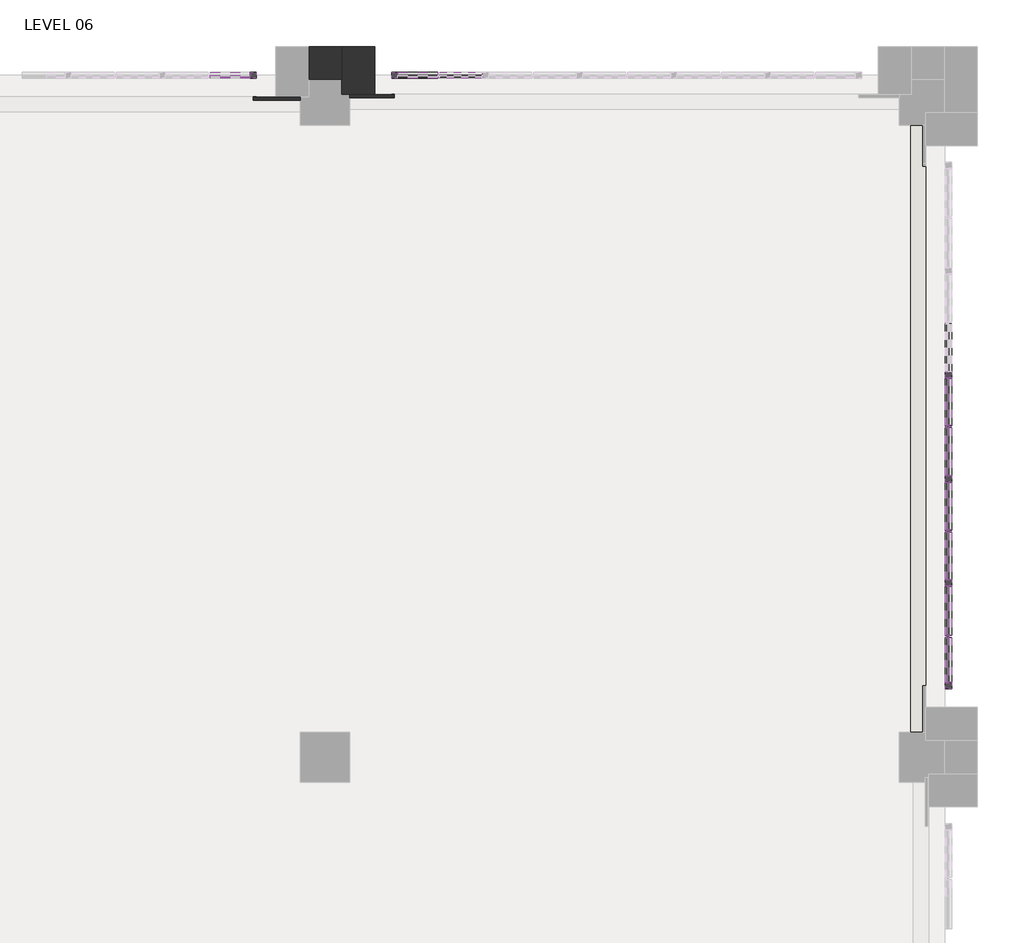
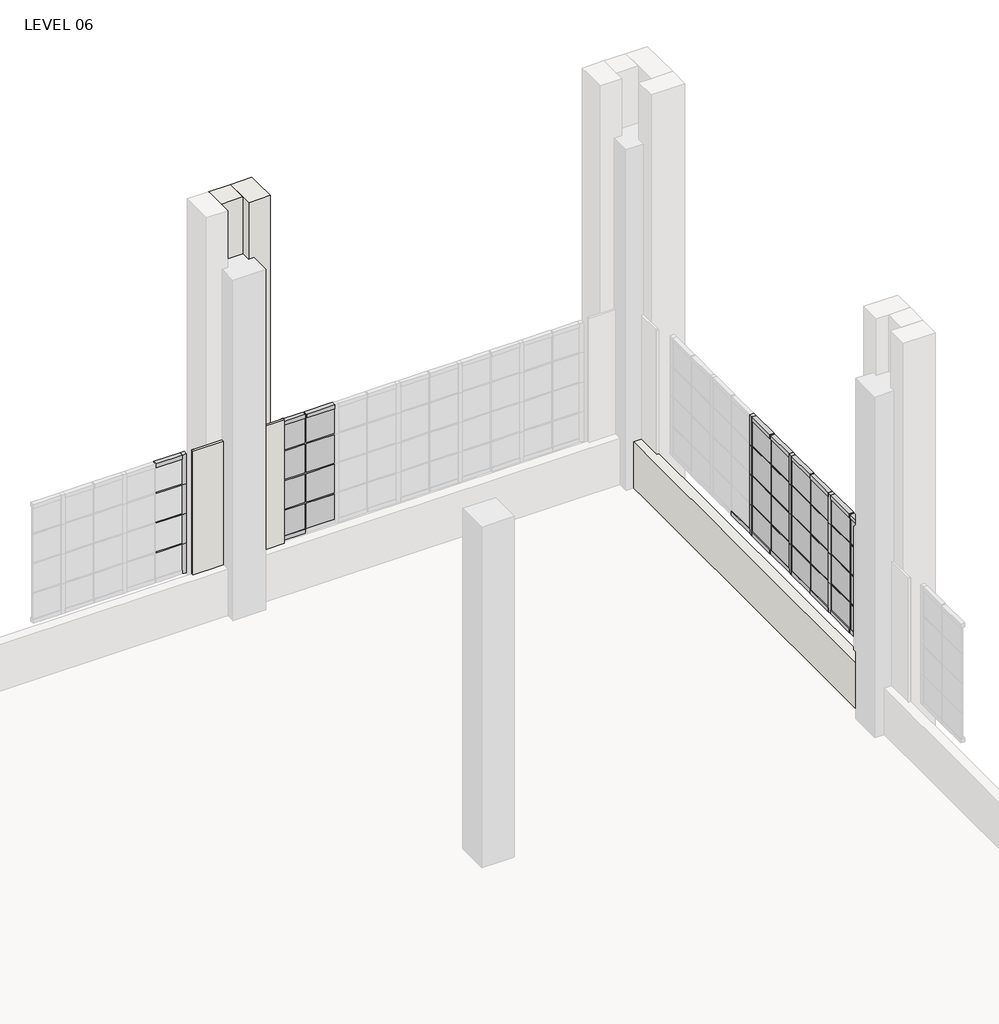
# One storey, part 14 of 16: 74 members, 32 plates, 8 walls.
"""IFC4 building model written with IfcOpenShell, lengths in millimetres."""

from ifc_helpers import new_model, si_unit, frame, origin, place, context, project, spatial, polyline, outline, extrude, faceted_brep, transform, mapped, element, save
from components import member_78bb2ef1, member_fd592df6, member_5454a1e2, member_b79563ae, member_0fe428da, member_d251e4a5, member_818b941f, member_79ff4cf2, member_378e0c06, member_17eb62f4, member_ba51e770, member_6e5aab5d, member_a6d649dc, member_a4f35c7f, member_8e47d4cd, member_ae2a2eb1, member_32b4be1d, member_1293f902, member_75ae02f4, member_141a1acd, system_panel_glazed_cd28395c, system_panel_glazed_f2669b12, system_panel_glazed_1e68634a, system_panel_glazed_e06c2ed7, system_panel_glazed_7e0f1b5c, system_panel_glazed_26de1e18, system_panel_glazed_c5f65025, system_panel_glazed_f888302b, system_panel_glazed_52d05554, system_panel_glazed_5ac43be7, system_panel_glazed_190d9c40, system_panel_glazed_114676b6, system_panel_glazed_84a10c8e, system_panel_glazed_44697018, system_panel_glazed_99b9b709, system_panel_glazed_bf1454fd

model = new_model("IFC4")

# Units and contexts
model_context = context("Model", 3, world=origin())
ifc_project = project(units=[si_unit("LENGTHUNIT", "METRE", prefix="MILLI")], contexts=[model_context])

# Site, building, storey
site = spatial("IfcSite", under=ifc_project)
building = spatial("IfcBuilding", under=site)
storey = spatial("IfcBuildingStorey", under=building, Name="LEVEL 06", Elevation=17449.8)

# Members
placement = place(None, origin())
member_shape = member_78bb2ef1(model_context)
element("IfcMember", 1, ObjectType="Rectangular Mullion : 1\" x 1\" - Butt Joint", at=placement, inside=storey, context=model_context, shape_type="MappedRepresentation", body=[
    mapped(member_shape, transform((-445.6849596, -7254.2239354, 19989.8), x_axis=(0.0, 1.0, 0.0), y_axis=(1.0, 0.0, 0.0), z_axis=(0.0, 0.0, -1.0))),
])
element("IfcMember", 2, ObjectType="Rectangular Mullion : 1\" x 1\" - Butt Joint", at=placement, inside=storey, context=model_context, shape_type="MappedRepresentation", body=[
    mapped(member_shape, transform((-445.6849596, -5966.495256, 19989.8), x_axis=(0.0, 1.0, 0.0), y_axis=(1.0, 0.0, 0.0), z_axis=(0.0, 0.0, -1.0))),
])
element("IfcMember", 3, ObjectType="Rectangular Mullion : 1\" x 1\" - Butt Joint", at=placement, inside=storey, context=model_context, shape_type="MappedRepresentation", body=[
    mapped(member_shape, transform((-445.6849596, -4690.5244085, 19989.8), x_axis=(0.0, 1.0, 0.0), y_axis=(1.0, 0.0, 0.0), z_axis=(0.0, 0.0, -1.0))),
])
element("IfcMember", 4, ObjectType="Rectangular Mullion : 1\" x 1\" - Butt Joint", at=placement, inside=storey, context=model_context, shape_type="MappedRepresentation", body=[
    mapped(member_shape, transform((-445.6849596, -7254.2239354, 18821.4), x_axis=(0.0, 1.0, 0.0), y_axis=(1.0, 0.0, 0.0), z_axis=(0.0, 0.0, -1.0))),
])
element("IfcMember", 5, ObjectType="Rectangular Mullion : 1\" x 1\" - Butt Joint", at=placement, inside=storey, context=model_context, shape_type="MappedRepresentation", body=[
    mapped(member_shape, transform((-445.6849596, -7254.2239354, 19405.6), x_axis=(0.0, 1.0, 0.0), y_axis=(1.0, 0.0, 0.0), z_axis=(0.0, 0.0, -1.0))),
])
element("IfcMember", 6, ObjectType="Rectangular Mullion : 1\" x 1\" - Butt Joint", at=placement, inside=storey, context=model_context, shape_type="MappedRepresentation", body=[
    mapped(member_shape, transform((-445.6849596, -5966.495256, 18821.4), x_axis=(0.0, 1.0, 0.0), y_axis=(1.0, 0.0, 0.0), z_axis=(0.0, 0.0, -1.0))),
])
element("IfcMember", 7, ObjectType="Rectangular Mullion : 1\" x 1\" - Butt Joint", at=placement, inside=storey, context=model_context, shape_type="MappedRepresentation", body=[
    mapped(member_shape, transform((-445.6849596, -5966.495256, 19405.6), x_axis=(0.0, 1.0, 0.0), y_axis=(1.0, 0.0, 0.0), z_axis=(0.0, 0.0, -1.0))),
])
element("IfcMember", 8, ObjectType="Rectangular Mullion : 1\" x 1\" - Butt Joint", at=placement, inside=storey, context=model_context, shape_type="MappedRepresentation", body=[
    mapped(member_shape, transform((-445.6849596, -4690.5244085, 18821.4), x_axis=(0.0, 1.0, 0.0), y_axis=(1.0, 0.0, 0.0), z_axis=(0.0, 0.0, -1.0))),
])
element("IfcMember", 9, ObjectType="Rectangular Mullion : 1\" x 1\" - Butt Joint", at=placement, inside=storey, context=model_context, shape_type="MappedRepresentation", body=[
    mapped(member_shape, transform((-445.6849596, -4690.5244085, 19405.6), x_axis=(0.0, 1.0, 0.0), y_axis=(1.0, 0.0, 0.0), z_axis=(0.0, 0.0, -1.0))),
])
element("IfcMember", 10, ObjectType="Rectangular Mullion : 1\" x 1\" - Butt Joint", at=placement, inside=storey, context=model_context, shape_type="MappedRepresentation", body=[
    mapped(member_shape, transform((-445.6849596, -7254.2239354, 18237.2), x_axis=(0.0, 1.0, 0.0), y_axis=(1.0, 0.0, 0.0), z_axis=(0.0, 0.0, -1.0))),
])
element("IfcMember", 11, ObjectType="Rectangular Mullion : 1\" x 1\" - Butt Joint", at=placement, inside=storey, context=model_context, shape_type="MappedRepresentation", body=[
    mapped(member_shape, transform((-445.6849596, -5966.495256, 18237.2), x_axis=(0.0, 1.0, 0.0), y_axis=(1.0, 0.0, 0.0), z_axis=(0.0, 0.0, -1.0))),
])
element("IfcMember", 12, ObjectType="Rectangular Mullion : 1\" x 1\" - Butt Joint", at=placement, inside=storey, context=model_context, shape_type="MappedRepresentation", body=[
    mapped(member_shape, transform((-445.6849596, -4690.5244085, 18237.2), x_axis=(0.0, 1.0, 0.0), y_axis=(1.0, 0.0, 0.0), z_axis=(0.0, 0.0, -1.0))),
])
member_2_shape = member_fd592df6(model_context)
element("IfcMember", 13, ObjectType="Rectangular Mullion : 1\" x 1\" - Butt Joint", at=placement, inside=storey, context=model_context, shape_type="MappedRepresentation", body=[
    mapped(member_2_shape, transform((-8961.5971519, -412.75, 19989.8), x_axis=(0.0, 0.0, 1.0), y_axis=(0.0, -1.0, 0.0), z_axis=(1.0, 0.0, 0.0))),
])
element("IfcMember", 14, ObjectType="Rectangular Mullion : 1\" x 1\" - Butt Joint", at=placement, inside=storey, context=model_context, shape_type="MappedRepresentation", body=[
    mapped(member_2_shape, transform((-8961.5971519, -412.75, 19405.6), x_axis=(0.0, 0.0, 1.0), y_axis=(0.0, -1.0, 0.0), z_axis=(1.0, 0.0, 0.0))),
])
element("IfcMember", 15, ObjectType="Rectangular Mullion : 1\" x 1\" - Butt Joint", at=placement, inside=storey, context=model_context, shape_type="MappedRepresentation", body=[
    mapped(member_2_shape, transform((-8961.5971519, -412.75, 18821.4), x_axis=(0.0, 0.0, 1.0), y_axis=(0.0, -1.0, 0.0), z_axis=(1.0, 0.0, 0.0))),
])
member_3_shape = member_5454a1e2(model_context)
element("IfcMember", 16, ObjectType="Rectangular Mullion : 1\" x 1\" - Butt Joint", at=placement, inside=storey, context=model_context, shape_type="MappedRepresentation", body=[
    mapped(member_3_shape, transform((-445.6849596, -6637.5924424, 19989.8), x_axis=(0.0, 0.0, 1.0), y_axis=(1.0, 0.0, 0.0), z_axis=(0.0, 1.0, 0.0))),
])
element("IfcMember", 17, ObjectType="Rectangular Mullion : 1\" x 1\" - Butt Joint", at=placement, inside=storey, context=model_context, shape_type="MappedRepresentation", body=[
    mapped(member_3_shape, transform((-445.6849596, -6637.5924424, 19405.6), x_axis=(0.0, 0.0, 1.0), y_axis=(1.0, 0.0, 0.0), z_axis=(0.0, 1.0, 0.0))),
])
element("IfcMember", 18, ObjectType="Rectangular Mullion : 1\" x 1\" - Butt Joint", at=placement, inside=storey, context=model_context, shape_type="MappedRepresentation", body=[
    mapped(member_3_shape, transform((-445.6849596, -6637.5924424, 18821.4), x_axis=(0.0, 0.0, 1.0), y_axis=(1.0, 0.0, 0.0), z_axis=(0.0, 1.0, 0.0))),
])
member_4_shape = member_b79563ae(model_context)
element("IfcMember", 19, ObjectType="Rectangular Mullion : 1\" x 1\" - Butt Joint", at=placement, inside=storey, context=model_context, shape_type="MappedRepresentation", body=[
    mapped(member_4_shape, transform((-445.6849596, -7266.9239354, 19989.8), x_axis=(0.0, 0.0, 1.0), y_axis=(1.0, 0.0, 0.0), z_axis=(0.0, 1.0, 0.0))),
])
element("IfcMember", 20, ObjectType="Rectangular Mullion : 1\" x 1\" - Butt Joint", at=placement, inside=storey, context=model_context, shape_type="MappedRepresentation", body=[
    mapped(member_4_shape, transform((-445.6849596, -7266.9239354, 19405.6), x_axis=(0.0, 0.0, 1.0), y_axis=(1.0, 0.0, 0.0), z_axis=(0.0, 1.0, 0.0))),
])
element("IfcMember", 21, ObjectType="Rectangular Mullion : 1\" x 1\" - Butt Joint", at=placement, inside=storey, context=model_context, shape_type="MappedRepresentation", body=[
    mapped(member_4_shape, transform((-445.6849596, -7266.9239354, 18821.4), x_axis=(0.0, 0.0, 1.0), y_axis=(1.0, 0.0, 0.0), z_axis=(0.0, 1.0, 0.0))),
])
member_5_shape = member_0fe428da(model_context)
element("IfcMember", 22, ObjectType="Rectangular Mullion : 1\" x 1\" - Butt Joint", at=placement, inside=storey, context=model_context, shape_type="MappedRepresentation", body=[
    mapped(member_5_shape, transform((-445.6849596, -5979.195256, 19989.8), x_axis=(0.0, 0.0, 1.0), y_axis=(1.0, 0.0, 0.0), z_axis=(0.0, 1.0, 0.0))),
])
element("IfcMember", 23, ObjectType="Rectangular Mullion : 1\" x 1\" - Butt Joint", at=placement, inside=storey, context=model_context, shape_type="MappedRepresentation", body=[
    mapped(member_5_shape, transform((-445.6849596, -5979.195256, 19405.6), x_axis=(0.0, 0.0, 1.0), y_axis=(1.0, 0.0, 0.0), z_axis=(0.0, 1.0, 0.0))),
])
element("IfcMember", 24, ObjectType="Rectangular Mullion : 1\" x 1\" - Butt Joint", at=placement, inside=storey, context=model_context, shape_type="MappedRepresentation", body=[
    mapped(member_5_shape, transform((-445.6849596, -5979.195256, 18821.4), x_axis=(0.0, 0.0, 1.0), y_axis=(1.0, 0.0, 0.0), z_axis=(0.0, 1.0, 0.0))),
])
member_6_shape = member_d251e4a5(model_context)
element("IfcMember", 25, ObjectType="Rectangular Mullion : 1\" x 1\" - Butt Joint", at=placement, inside=storey, context=model_context, shape_type="MappedRepresentation", body=[
    mapped(member_6_shape, transform((-445.6849596, -5368.9142902, 19989.8), x_axis=(0.0, 0.0, 1.0), y_axis=(1.0, 0.0, 0.0), z_axis=(0.0, 1.0, 0.0))),
])
element("IfcMember", 26, ObjectType="Rectangular Mullion : 1\" x 1\" - Butt Joint", at=placement, inside=storey, context=model_context, shape_type="MappedRepresentation", body=[
    mapped(member_6_shape, transform((-445.6849596, -5368.9142902, 19405.6), x_axis=(0.0, 0.0, 1.0), y_axis=(1.0, 0.0, 0.0), z_axis=(0.0, 1.0, 0.0))),
])
element("IfcMember", 27, ObjectType="Rectangular Mullion : 1\" x 1\" - Butt Joint", at=placement, inside=storey, context=model_context, shape_type="MappedRepresentation", body=[
    mapped(member_6_shape, transform((-445.6849596, -5368.9142902, 18821.4), x_axis=(0.0, 0.0, 1.0), y_axis=(1.0, 0.0, 0.0), z_axis=(0.0, 1.0, 0.0))),
])
member_7_shape = member_818b941f(model_context)
element("IfcMember", 28, ObjectType="Rectangular Mullion : 1\" x 1\" - Butt Joint", at=placement, inside=storey, context=model_context, shape_type="MappedRepresentation", body=[
    mapped(member_7_shape, transform((-445.6849596, -4703.2244085, 19989.8), x_axis=(0.0, 0.0, 1.0), y_axis=(1.0, 0.0, 0.0), z_axis=(0.0, 1.0, 0.0))),
])
element("IfcMember", 29, ObjectType="Rectangular Mullion : 1\" x 1\" - Butt Joint", at=placement, inside=storey, context=model_context, shape_type="MappedRepresentation", body=[
    mapped(member_7_shape, transform((-445.6849596, -4703.2244085, 19405.6), x_axis=(0.0, 0.0, 1.0), y_axis=(1.0, 0.0, 0.0), z_axis=(0.0, 1.0, 0.0))),
])
element("IfcMember", 30, ObjectType="Rectangular Mullion : 1\" x 1\" - Butt Joint", at=placement, inside=storey, context=model_context, shape_type="MappedRepresentation", body=[
    mapped(member_7_shape, transform((-445.6849596, -4703.2244085, 18821.4), x_axis=(0.0, 0.0, 1.0), y_axis=(1.0, 0.0, 0.0), z_axis=(0.0, 1.0, 0.0))),
])
member_8_shape = member_79ff4cf2(model_context)
element("IfcMember", 31, ObjectType="Rectangular Mullion : 1\" x 1\" - Butt Joint", at=placement, inside=storey, context=model_context, shape_type="MappedRepresentation", body=[
    mapped(member_8_shape, transform((-445.6849596, -4097.8595268, 19989.8), x_axis=(0.0, 0.0, 1.0), y_axis=(1.0, 0.0, 0.0), z_axis=(0.0, 1.0, 0.0))),
])
element("IfcMember", 32, ObjectType="Rectangular Mullion : 1\" x 1\" - Butt Joint", at=placement, inside=storey, context=model_context, shape_type="MappedRepresentation", body=[
    mapped(member_8_shape, transform((-445.6849596, -4097.8595268, 19405.6), x_axis=(0.0, 0.0, 1.0), y_axis=(1.0, 0.0, 0.0), z_axis=(0.0, 1.0, 0.0))),
])
element("IfcMember", 33, ObjectType="Rectangular Mullion : 1\" x 1\" - Butt Joint", at=placement, inside=storey, context=model_context, shape_type="MappedRepresentation", body=[
    mapped(member_8_shape, transform((-445.6849596, -4097.8595268, 18821.4), x_axis=(0.0, 0.0, 1.0), y_axis=(1.0, 0.0, 0.0), z_axis=(0.0, 1.0, 0.0))),
])
member_9_shape = member_378e0c06(model_context)
element("IfcMember", 34, ObjectType="Rectangular Mullion : 3\" x 3\" Window Jamb", at=placement, inside=storey, context=model_context, shape_type="MappedRepresentation", body=[
    mapped(member_9_shape, transform((-445.6849596, -6599.4924424, 19989.8), x_axis=(0.0, 1.0, 0.0), y_axis=(1.0, 0.0, 0.0), z_axis=(0.0, 0.0, -1.0))),
])
element("IfcMember", 35, ObjectType="Rectangular Mullion : 3\" x 3\" Window Jamb", at=placement, inside=storey, context=model_context, shape_type="MappedRepresentation", body=[
    mapped(member_9_shape, transform((-445.6849596, -5330.8142902, 19989.8), x_axis=(0.0, 1.0, 0.0), y_axis=(1.0, 0.0, 0.0), z_axis=(0.0, 0.0, -1.0))),
])
element("IfcMember", 36, ObjectType="Rectangular Mullion : 3\" x 3\" Window Jamb", at=placement, inside=storey, context=model_context, shape_type="MappedRepresentation", body=[
    mapped(member_9_shape, transform((-445.6849596, -4059.7595268, 19989.8), x_axis=(0.0, 1.0, 0.0), y_axis=(1.0, 0.0, 0.0), z_axis=(0.0, 0.0, -1.0))),
])
member_10_shape = member_17eb62f4(model_context)
element("IfcMember", 37, ObjectType="Rectangular Mullion : 3\" x 3\" Window Jamb", at=placement, inside=storey, context=model_context, shape_type="MappedRepresentation", body=[
    mapped(member_10_shape, transform((-445.6849596, -7891.9738171, 20574.0), x_axis=(0.0, -1.0, 0.0), y_axis=(1.0, 0.0, 0.0), z_axis=(0.0, 0.0, 1.0))),
])
element("IfcMember", 38, ObjectType="Rectangular Mullion : 3\" x 3\" Window Jamb", at=placement, inside=storey, context=model_context, shape_type="MappedRepresentation", body=[
    mapped(member_9_shape, transform((-445.6849596, -6599.4924424, 18821.4), x_axis=(0.0, 1.0, 0.0), y_axis=(1.0, 0.0, 0.0), z_axis=(0.0, 0.0, -1.0))),
])
element("IfcMember", 39, ObjectType="Rectangular Mullion : 3\" x 3\" Window Jamb", at=placement, inside=storey, context=model_context, shape_type="MappedRepresentation", body=[
    mapped(member_9_shape, transform((-445.6849596, -6599.4924424, 19405.6), x_axis=(0.0, 1.0, 0.0), y_axis=(1.0, 0.0, 0.0), z_axis=(0.0, 0.0, -1.0))),
])
element("IfcMember", 40, ObjectType="Rectangular Mullion : 3\" x 3\" Window Jamb", at=placement, inside=storey, context=model_context, shape_type="MappedRepresentation", body=[
    mapped(member_9_shape, transform((-445.6849596, -5330.8142902, 18821.4), x_axis=(0.0, 1.0, 0.0), y_axis=(1.0, 0.0, 0.0), z_axis=(0.0, 0.0, -1.0))),
])
element("IfcMember", 41, ObjectType="Rectangular Mullion : 3\" x 3\" Window Jamb", at=placement, inside=storey, context=model_context, shape_type="MappedRepresentation", body=[
    mapped(member_9_shape, transform((-445.6849596, -5330.8142902, 19405.6), x_axis=(0.0, 1.0, 0.0), y_axis=(1.0, 0.0, 0.0), z_axis=(0.0, 0.0, -1.0))),
])
element("IfcMember", 42, ObjectType="Rectangular Mullion : 3\" x 3\" Window Jamb", at=placement, inside=storey, context=model_context, shape_type="MappedRepresentation", body=[
    mapped(member_9_shape, transform((-445.6849596, -4059.7595268, 18821.4), x_axis=(0.0, 1.0, 0.0), y_axis=(1.0, 0.0, 0.0), z_axis=(0.0, 0.0, -1.0))),
])
element("IfcMember", 43, ObjectType="Rectangular Mullion : 3\" x 3\" Window Jamb", at=placement, inside=storey, context=model_context, shape_type="MappedRepresentation", body=[
    mapped(member_9_shape, transform((-445.6849596, -4059.7595268, 19405.6), x_axis=(0.0, 1.0, 0.0), y_axis=(1.0, 0.0, 0.0), z_axis=(0.0, 0.0, -1.0))),
])
element("IfcMember", 44, ObjectType="Rectangular Mullion : 3\" x 3\" Window Jamb", at=placement, inside=storey, context=model_context, shape_type="MappedRepresentation", body=[
    mapped(member_10_shape, transform((-445.6849596, -7891.9738171, 19989.8), x_axis=(0.0, -1.0, 0.0), y_axis=(1.0, 0.0, 0.0), z_axis=(0.0, 0.0, 1.0))),
])
element("IfcMember", 45, ObjectType="Rectangular Mullion : 3\" x 3\" Window Jamb", at=placement, inside=storey, context=model_context, shape_type="MappedRepresentation", body=[
    mapped(member_10_shape, transform((-445.6849596, -7891.9738171, 19405.6), x_axis=(0.0, -1.0, 0.0), y_axis=(1.0, 0.0, 0.0), z_axis=(0.0, 0.0, 1.0))),
])
element("IfcMember", 46, ObjectType="Rectangular Mullion : 3\" x 3\" Window Jamb", at=placement, inside=storey, context=model_context, shape_type="MappedRepresentation", body=[
    mapped(member_9_shape, transform((-445.6849596, -6599.4924424, 18237.2), x_axis=(0.0, 1.0, 0.0), y_axis=(1.0, 0.0, 0.0), z_axis=(0.0, 0.0, -1.0))),
])
element("IfcMember", 47, ObjectType="Rectangular Mullion : 3\" x 3\" Window Jamb", at=placement, inside=storey, context=model_context, shape_type="MappedRepresentation", body=[
    mapped(member_9_shape, transform((-445.6849596, -5330.8142902, 18237.2), x_axis=(0.0, 1.0, 0.0), y_axis=(1.0, 0.0, 0.0), z_axis=(0.0, 0.0, -1.0))),
])
element("IfcMember", 48, ObjectType="Rectangular Mullion : 3\" x 3\" Window Jamb", at=placement, inside=storey, context=model_context, shape_type="MappedRepresentation", body=[
    mapped(member_9_shape, transform((-445.6849596, -4059.7595268, 18237.2), x_axis=(0.0, 1.0, 0.0), y_axis=(1.0, 0.0, 0.0), z_axis=(0.0, 0.0, -1.0))),
])
element("IfcMember", 49, ObjectType="Rectangular Mullion : 3\" x 3\" Window Jamb", at=placement, inside=storey, context=model_context, shape_type="MappedRepresentation", body=[
    mapped(member_10_shape, transform((-445.6849596, -7891.9738171, 18821.4), x_axis=(0.0, -1.0, 0.0), y_axis=(1.0, 0.0, 0.0), z_axis=(0.0, 0.0, 1.0))),
])
member_11_shape = member_ba51e770(model_context)
element("IfcMember", 50, ObjectType="Rectangular Mullion : 3\" x 3\" Window Jamb", at=placement, inside=storey, context=model_context, shape_type="MappedRepresentation", body=[
    mapped(member_11_shape, transform((-6673.0571519, -412.75, 20574.0), x_axis=(0.0, 0.0, 1.0), y_axis=(0.0, -1.0, 0.0), z_axis=(1.0, 0.0, 0.0))),
])
element("IfcMember", 51, ObjectType="Rectangular Mullion : 3\" x 3\" Window Jamb", at=placement, inside=storey, context=model_context, shape_type="MappedRepresentation", body=[
    mapped(member_11_shape, transform((-8961.5971519, -412.75, 20574.0), x_axis=(0.0, 0.0, 1.0), y_axis=(0.0, -1.0, 0.0), z_axis=(1.0, 0.0, 0.0))),
])
member_12_shape = member_6e5aab5d(model_context)
element("IfcMember", 52, ObjectType="Rectangular Mullion : 3\" x 3\" Window Jamb", at=placement, inside=storey, context=model_context, shape_type="MappedRepresentation", body=[
    mapped(member_12_shape, transform((-6124.4171519, -412.75, 20574.0), x_axis=(0.0, 0.0, 1.0), y_axis=(0.0, -1.0, 0.0), z_axis=(1.0, 0.0, 0.0))),
])
element("IfcMember", 53, ObjectType="Rectangular Mullion : 3\" x 3\" Window Jamb", at=placement, inside=storey, context=model_context, shape_type="MappedRepresentation", body=[
    mapped(member_11_shape, transform((-7158.1971519, -412.75, 18237.2), x_axis=(0.0, 0.0, -1.0), y_axis=(0.0, -1.0, 0.0), z_axis=(-1.0, 0.0, 0.0))),
])
member_13_shape = member_a6d649dc(model_context)
element("IfcMember", 54, ObjectType="Rectangular Mullion : 3\" x 3\" Window Jamb", at=placement, inside=storey, context=model_context, shape_type="MappedRepresentation", body=[
    mapped(member_13_shape, transform((-8885.3971519, -412.75, 19989.8), x_axis=(1.0, 0.0, 0.0), y_axis=(0.0, -1.0, 0.0), z_axis=(0.0, 0.0, -1.0))),
])
element("IfcMember", 55, ObjectType="Rectangular Mullion : 3\" x 3\" Window Jamb", at=placement, inside=storey, context=model_context, shape_type="MappedRepresentation", body=[
    mapped(member_13_shape, transform((-8885.3971519, -412.75, 18821.4), x_axis=(1.0, 0.0, 0.0), y_axis=(0.0, -1.0, 0.0), z_axis=(0.0, 0.0, -1.0))),
])
element("IfcMember", 56, ObjectType="Rectangular Mullion : 3\" x 3\" Window Jamb", at=placement, inside=storey, context=model_context, shape_type="MappedRepresentation", body=[
    mapped(member_13_shape, transform((-8885.3971519, -412.75, 19405.6), x_axis=(1.0, 0.0, 0.0), y_axis=(0.0, -1.0, 0.0), z_axis=(0.0, 0.0, -1.0))),
])
element("IfcMember", 57, ObjectType="Rectangular Mullion : 3\" x 3\" Window Jamb", at=placement, inside=storey, context=model_context, shape_type="MappedRepresentation", body=[
    mapped(member_13_shape, transform((-8885.3971519, -412.75, 18237.2), x_axis=(1.0, 0.0, 0.0), y_axis=(0.0, -1.0, 0.0), z_axis=(0.0, 0.0, -1.0))),
])
element("IfcMember", 58, ObjectType="Rectangular Mullion : 3\" x 3\" Window Jamb", at=placement, inside=storey, context=model_context, shape_type="MappedRepresentation", body=[
    mapped(member_13_shape, transform((-7234.3971519, -412.75, 19989.8), x_axis=(-1.0, 0.0, 0.0), y_axis=(0.0, -1.0, 0.0), z_axis=(0.0, 0.0, 1.0))),
])
element("IfcMember", 59, ObjectType="Rectangular Mullion : 3\" x 3\" Window Jamb", at=placement, inside=storey, context=model_context, shape_type="MappedRepresentation", body=[
    mapped(member_13_shape, transform((-7234.3971519, -412.75, 19405.6), x_axis=(-1.0, 0.0, 0.0), y_axis=(0.0, -1.0, 0.0), z_axis=(0.0, 0.0, 1.0))),
])
element("IfcMember", 60, ObjectType="Rectangular Mullion : 3\" x 3\" Window Jamb", at=placement, inside=storey, context=model_context, shape_type="MappedRepresentation", body=[
    mapped(member_13_shape, transform((-7234.3971519, -412.75, 18821.4), x_axis=(-1.0, 0.0, 0.0), y_axis=(0.0, -1.0, 0.0), z_axis=(0.0, 0.0, 1.0))),
])
element("IfcMember", 61, ObjectType="Rectangular Mullion : 3\" x 3\" Window Jamb", at=placement, inside=storey, context=model_context, shape_type="MappedRepresentation", body=[
    mapped(member_13_shape, transform((-7234.3971519, -412.75, 20574.0), x_axis=(-1.0, 0.0, 0.0), y_axis=(0.0, -1.0, 0.0), z_axis=(0.0, 0.0, 1.0))),
])
member_14_shape = member_a4f35c7f(model_context)
element("IfcMember", 62, ObjectType="Rectangular Mullion : 3\" x 3\" Window Jamb", at=placement, inside=storey, context=model_context, shape_type="MappedRepresentation", body=[
    mapped(member_14_shape, transform((-445.6849596, -7266.9239354, 20574.0), x_axis=(0.0, 0.0, 1.0), y_axis=(1.0, 0.0, 0.0), z_axis=(0.0, 1.0, 0.0))),
])
member_15_shape = member_8e47d4cd(model_context)
element("IfcMember", 63, ObjectType="Rectangular Mullion : 3\" x 3\" Window Jamb", at=placement, inside=storey, context=model_context, shape_type="MappedRepresentation", body=[
    mapped(member_15_shape, transform((-445.6849596, -6637.5924424, 20574.0), x_axis=(0.0, 0.0, 1.0), y_axis=(1.0, 0.0, 0.0), z_axis=(0.0, 1.0, 0.0))),
])
element("IfcMember", 64, ObjectType="Rectangular Mullion : 3\" x 3\" Window Jamb", at=placement, inside=storey, context=model_context, shape_type="MappedRepresentation", body=[
    mapped(member_15_shape, transform((-445.6849596, -7241.5239354, 18237.2), x_axis=(0.0, 0.0, -1.0), y_axis=(1.0, 0.0, 0.0), z_axis=(0.0, -1.0, 0.0))),
])
element("IfcMember", 65, ObjectType="Rectangular Mullion : 3\" x 3\" Window Jamb", at=placement, inside=storey, context=model_context, shape_type="MappedRepresentation", body=[
    mapped(member_14_shape, transform((-445.6849596, -7815.7738171, 18237.2), x_axis=(0.0, 0.0, -1.0), y_axis=(1.0, 0.0, 0.0), z_axis=(0.0, -1.0, 0.0))),
])
member_16_shape = member_ae2a2eb1(model_context)
element("IfcMember", 66, ObjectType="Rectangular Mullion : 3\" x 3\" Window Jamb", at=placement, inside=storey, context=model_context, shape_type="MappedRepresentation", body=[
    mapped(member_16_shape, transform((-445.6849596, -5979.195256, 20574.0), x_axis=(0.0, 0.0, 1.0), y_axis=(1.0, 0.0, 0.0), z_axis=(0.0, 1.0, 0.0))),
])
element("IfcMember", 67, ObjectType="Rectangular Mullion : 3\" x 3\" Window Jamb", at=placement, inside=storey, context=model_context, shape_type="MappedRepresentation", body=[
    mapped(member_16_shape, transform((-445.6849596, -6561.3924424, 18237.2), x_axis=(0.0, 0.0, -1.0), y_axis=(1.0, 0.0, 0.0), z_axis=(0.0, -1.0, 0.0))),
])
member_17_shape = member_32b4be1d(model_context)
element("IfcMember", 68, ObjectType="Rectangular Mullion : 3\" x 3\" Window Jamb", at=placement, inside=storey, context=model_context, shape_type="MappedRepresentation", body=[
    mapped(member_17_shape, transform((-445.6849596, -5368.9142902, 20574.0), x_axis=(0.0, 0.0, 1.0), y_axis=(1.0, 0.0, 0.0), z_axis=(0.0, 1.0, 0.0))),
])
element("IfcMember", 69, ObjectType="Rectangular Mullion : 3\" x 3\" Window Jamb", at=placement, inside=storey, context=model_context, shape_type="MappedRepresentation", body=[
    mapped(member_17_shape, transform((-445.6849596, -5953.795256, 18237.2), x_axis=(0.0, 0.0, -1.0), y_axis=(1.0, 0.0, 0.0), z_axis=(0.0, -1.0, 0.0))),
])
member_18_shape = member_1293f902(model_context)
element("IfcMember", 70, ObjectType="Rectangular Mullion : 3\" x 3\" Window Jamb", at=placement, inside=storey, context=model_context, shape_type="MappedRepresentation", body=[
    mapped(member_18_shape, transform((-445.6849596, -4703.2244085, 20574.0), x_axis=(0.0, 0.0, 1.0), y_axis=(1.0, 0.0, 0.0), z_axis=(0.0, 1.0, 0.0))),
])
element("IfcMember", 71, ObjectType="Rectangular Mullion : 3\" x 3\" Window Jamb", at=placement, inside=storey, context=model_context, shape_type="MappedRepresentation", body=[
    mapped(member_18_shape, transform((-445.6849596, -5292.7142902, 18237.2), x_axis=(0.0, 0.0, -1.0), y_axis=(1.0, 0.0, 0.0), z_axis=(0.0, -1.0, 0.0))),
])
member_19_shape = member_75ae02f4(model_context)
element("IfcMember", 72, ObjectType="Rectangular Mullion : 3\" x 3\" Window Jamb", at=placement, inside=storey, context=model_context, shape_type="MappedRepresentation", body=[
    mapped(member_19_shape, transform((-445.6849596, -4097.8595268, 20574.0), x_axis=(0.0, 0.0, 1.0), y_axis=(1.0, 0.0, 0.0), z_axis=(0.0, 1.0, 0.0))),
])
element("IfcMember", 73, ObjectType="Rectangular Mullion : 3\" x 3\" Window Jamb", at=placement, inside=storey, context=model_context, shape_type="MappedRepresentation", body=[
    mapped(member_19_shape, transform((-445.6849596, -4677.8244085, 18237.2), x_axis=(0.0, 0.0, -1.0), y_axis=(1.0, 0.0, 0.0), z_axis=(0.0, -1.0, 0.0))),
])
member_20_shape = member_141a1acd(model_context)
element("IfcMember", 74, ObjectType="Rectangular Mullion : 3\" x 3\" Window Jamb", at=placement, inside=storey, context=model_context, shape_type="MappedRepresentation", body=[
    mapped(member_20_shape, transform((-445.6849596, -4021.6595268, 18237.2), x_axis=(0.0, 0.0, -1.0), y_axis=(1.0, 0.0, 0.0), z_axis=(0.0, -1.0, 0.0))),
])

# Plates
system_panel_glazed_shape = system_panel_glazed_cd28395c(model_context)
element("IfcPlate", 75, ObjectType="System Panel : Glazed", at=placement, inside=storey, context=model_context, shape_type="MappedRepresentation", body=[
    mapped(system_panel_glazed_shape, transform((-445.6849596, -7541.3488762, 18313.4), x_axis=(0.0, 1.0, 0.0), y_axis=(-1.0, 0.0, 0.0), z_axis=(0.0, 0.0, 1.0))),
])
element("IfcPlate", 76, ObjectType="System Panel : Glazed", at=placement, inside=storey, context=model_context, shape_type="MappedRepresentation", body=[
    mapped(system_panel_glazed_shape, transform((-445.6849596, -7541.3488762, 20002.5), x_axis=(0.0, 1.0, 0.0), y_axis=(-1.0, 0.0, 0.0), z_axis=(0.0, 0.0, 1.0))),
])
system_panel_glazed_2_shape = system_panel_glazed_f2669b12(model_context)
element("IfcPlate", 77, ObjectType="System Panel : Glazed", at=placement, inside=storey, context=model_context, shape_type="MappedRepresentation", body=[
    mapped(system_panel_glazed_2_shape, transform((-445.6849596, -6270.2938492, 18313.4), x_axis=(0.0, 1.0, 0.0), y_axis=(-1.0, 0.0, 0.0), z_axis=(0.0, 0.0, 1.0))),
])
element("IfcPlate", 78, ObjectType="System Panel : Glazed", at=placement, inside=storey, context=model_context, shape_type="MappedRepresentation", body=[
    mapped(system_panel_glazed_2_shape, transform((-445.6849596, -6270.2938492, 20002.5), x_axis=(0.0, 1.0, 0.0), y_axis=(-1.0, 0.0, 0.0), z_axis=(0.0, 0.0, 1.0))),
])
system_panel_glazed_3_shape = system_panel_glazed_1e68634a(model_context)
element("IfcPlate", 79, ObjectType="System Panel : Glazed", at=placement, inside=storey, context=model_context, shape_type="MappedRepresentation", body=[
    mapped(system_panel_glazed_3_shape, transform((-445.6849596, -4997.9693494, 18313.4), x_axis=(0.0, 1.0, 0.0), y_axis=(-1.0, 0.0, 0.0), z_axis=(0.0, 0.0, 1.0))),
])
element("IfcPlate", 80, ObjectType="System Panel : Glazed", at=placement, inside=storey, context=model_context, shape_type="MappedRepresentation", body=[
    mapped(system_panel_glazed_3_shape, transform((-445.6849596, -4997.9693494, 20002.5), x_axis=(0.0, 1.0, 0.0), y_axis=(-1.0, 0.0, 0.0), z_axis=(0.0, 0.0, 1.0))),
])
system_panel_glazed_4_shape = system_panel_glazed_e06c2ed7(model_context)
element("IfcPlate", 81, ObjectType="System Panel : Glazed", at=placement, inside=storey, context=model_context, shape_type="MappedRepresentation", body=[
    mapped(system_panel_glazed_4_shape, transform((-445.6849596, -7541.3488762, 19418.3), x_axis=(0.0, 1.0, 0.0), y_axis=(-1.0, 0.0, 0.0), z_axis=(0.0, 0.0, 1.0))),
])
element("IfcPlate", 82, ObjectType="System Panel : Glazed", at=placement, inside=storey, context=model_context, shape_type="MappedRepresentation", body=[
    mapped(system_panel_glazed_4_shape, transform((-445.6849596, -7541.3488762, 18834.1), x_axis=(0.0, 1.0, 0.0), y_axis=(-1.0, 0.0, 0.0), z_axis=(0.0, 0.0, 1.0))),
])
system_panel_glazed_5_shape = system_panel_glazed_7e0f1b5c(model_context)
element("IfcPlate", 83, ObjectType="System Panel : Glazed", at=placement, inside=storey, context=model_context, shape_type="MappedRepresentation", body=[
    mapped(system_panel_glazed_5_shape, transform((-445.6849596, -6270.2938492, 19418.3), x_axis=(0.0, 1.0, 0.0), y_axis=(-1.0, 0.0, 0.0), z_axis=(0.0, 0.0, 1.0))),
])
element("IfcPlate", 84, ObjectType="System Panel : Glazed", at=placement, inside=storey, context=model_context, shape_type="MappedRepresentation", body=[
    mapped(system_panel_glazed_5_shape, transform((-445.6849596, -6270.2938492, 18834.1), x_axis=(0.0, 1.0, 0.0), y_axis=(-1.0, 0.0, 0.0), z_axis=(0.0, 0.0, 1.0))),
])
system_panel_glazed_6_shape = system_panel_glazed_26de1e18(model_context)
element("IfcPlate", 85, ObjectType="System Panel : Glazed", at=placement, inside=storey, context=model_context, shape_type="MappedRepresentation", body=[
    mapped(system_panel_glazed_6_shape, transform((-445.6849596, -4997.9693494, 19418.3), x_axis=(0.0, 1.0, 0.0), y_axis=(-1.0, 0.0, 0.0), z_axis=(0.0, 0.0, 1.0))),
])
element("IfcPlate", 86, ObjectType="System Panel : Glazed", at=placement, inside=storey, context=model_context, shape_type="MappedRepresentation", body=[
    mapped(system_panel_glazed_6_shape, transform((-445.6849596, -4997.9693494, 18834.1), x_axis=(0.0, 1.0, 0.0), y_axis=(-1.0, 0.0, 0.0), z_axis=(0.0, 0.0, 1.0))),
])
system_panel_glazed_7_shape = system_panel_glazed_c5f65025(model_context)
element("IfcPlate", 87, ObjectType="System Panel : Glazed", at=placement, inside=storey, context=model_context, shape_type="MappedRepresentation", body=[
    mapped(system_panel_glazed_7_shape, transform((-445.6849596, -6939.5581889, 18313.4), x_axis=(0.0, 1.0, 0.0), y_axis=(-1.0, 0.0, 0.0), z_axis=(0.0, 0.0, 1.0))),
])
element("IfcPlate", 88, ObjectType="System Panel : Glazed", at=placement, inside=storey, context=model_context, shape_type="MappedRepresentation", body=[
    mapped(system_panel_glazed_7_shape, transform((-445.6849596, -6939.5581889, 20002.5), x_axis=(0.0, 1.0, 0.0), y_axis=(-1.0, 0.0, 0.0), z_axis=(0.0, 0.0, 1.0))),
])
system_panel_glazed_8_shape = system_panel_glazed_f888302b(model_context)
element("IfcPlate", 89, ObjectType="System Panel : Glazed", at=placement, inside=storey, context=model_context, shape_type="MappedRepresentation", body=[
    mapped(system_panel_glazed_8_shape, transform((-445.6849596, -6939.5581889, 18834.1), x_axis=(0.0, 1.0, 0.0), y_axis=(-1.0, 0.0, 0.0), z_axis=(0.0, 0.0, 1.0))),
])
element("IfcPlate", 90, ObjectType="System Panel : Glazed", at=placement, inside=storey, context=model_context, shape_type="MappedRepresentation", body=[
    mapped(system_panel_glazed_8_shape, transform((-445.6849596, -6939.5581889, 19418.3), x_axis=(0.0, 1.0, 0.0), y_axis=(-1.0, 0.0, 0.0), z_axis=(0.0, 0.0, 1.0))),
])
system_panel_glazed_9_shape = system_panel_glazed_52d05554(model_context)
element("IfcPlate", 91, ObjectType="System Panel : Glazed", at=placement, inside=storey, context=model_context, shape_type="MappedRepresentation", body=[
    mapped(system_panel_glazed_9_shape, transform((-445.6849596, -5661.3547731, 18313.4), x_axis=(0.0, 1.0, 0.0), y_axis=(-1.0, 0.0, 0.0), z_axis=(0.0, 0.0, 1.0))),
])
element("IfcPlate", 92, ObjectType="System Panel : Glazed", at=placement, inside=storey, context=model_context, shape_type="MappedRepresentation", body=[
    mapped(system_panel_glazed_9_shape, transform((-445.6849596, -5661.3547731, 20002.5), x_axis=(0.0, 1.0, 0.0), y_axis=(-1.0, 0.0, 0.0), z_axis=(0.0, 0.0, 1.0))),
])
system_panel_glazed_10_shape = system_panel_glazed_5ac43be7(model_context)
element("IfcPlate", 93, ObjectType="System Panel : Glazed", at=placement, inside=storey, context=model_context, shape_type="MappedRepresentation", body=[
    mapped(system_panel_glazed_10_shape, transform((-445.6849596, -5661.3547731, 18834.1), x_axis=(0.0, 1.0, 0.0), y_axis=(-1.0, 0.0, 0.0), z_axis=(0.0, 0.0, 1.0))),
])
element("IfcPlate", 94, ObjectType="System Panel : Glazed", at=placement, inside=storey, context=model_context, shape_type="MappedRepresentation", body=[
    mapped(system_panel_glazed_10_shape, transform((-445.6849596, -5661.3547731, 19418.3), x_axis=(0.0, 1.0, 0.0), y_axis=(-1.0, 0.0, 0.0), z_axis=(0.0, 0.0, 1.0))),
])
system_panel_glazed_11_shape = system_panel_glazed_190d9c40(model_context)
element("IfcPlate", 95, ObjectType="System Panel : Glazed", at=placement, inside=storey, context=model_context, shape_type="MappedRepresentation", body=[
    mapped(system_panel_glazed_11_shape, transform((-445.6849596, -4387.8419677, 18313.4), x_axis=(0.0, 1.0, 0.0), y_axis=(-1.0, 0.0, 0.0), z_axis=(0.0, 0.0, 1.0))),
])
element("IfcPlate", 96, ObjectType="System Panel : Glazed", at=placement, inside=storey, context=model_context, shape_type="MappedRepresentation", body=[
    mapped(system_panel_glazed_11_shape, transform((-445.6849596, -4387.8419677, 20002.5), x_axis=(0.0, 1.0, 0.0), y_axis=(-1.0, 0.0, 0.0), z_axis=(0.0, 0.0, 1.0))),
])
system_panel_glazed_12_shape = system_panel_glazed_114676b6(model_context)
element("IfcPlate", 97, ObjectType="System Panel : Glazed", at=placement, inside=storey, context=model_context, shape_type="MappedRepresentation", body=[
    mapped(system_panel_glazed_12_shape, transform((-445.6849596, -4387.8419677, 18834.1), x_axis=(0.0, 1.0, 0.0), y_axis=(-1.0, 0.0, 0.0), z_axis=(0.0, 0.0, 1.0))),
])
element("IfcPlate", 98, ObjectType="System Panel : Glazed", at=placement, inside=storey, context=model_context, shape_type="MappedRepresentation", body=[
    mapped(system_panel_glazed_12_shape, transform((-445.6849596, -4387.8419677, 19418.3), x_axis=(0.0, 1.0, 0.0), y_axis=(-1.0, 0.0, 0.0), z_axis=(0.0, 0.0, 1.0))),
])
system_panel_glazed_13_shape = system_panel_glazed_84a10c8e(model_context)
element("IfcPlate", 99, ObjectType="System Panel : Glazed", at=placement, inside=storey, context=model_context, shape_type="MappedRepresentation", body=[
    mapped(system_panel_glazed_13_shape, transform((-6915.6271519, -412.75, 18313.4), x_axis=(1.0, 0.0, 0.0), y_axis=(0.0, 1.0, 0.0), z_axis=(0.0, 0.0, 1.0))),
])
element("IfcPlate", 100, ObjectType="System Panel : Glazed", at=placement, inside=storey, context=model_context, shape_type="MappedRepresentation", body=[
    mapped(system_panel_glazed_13_shape, transform((-6915.6271519, -412.75, 20002.5), x_axis=(1.0, 0.0, 0.0), y_axis=(0.0, 1.0, 0.0), z_axis=(0.0, 0.0, 1.0))),
])
system_panel_glazed_14_shape = system_panel_glazed_44697018(model_context)
element("IfcPlate", 101, ObjectType="System Panel : Glazed", at=placement, inside=storey, context=model_context, shape_type="MappedRepresentation", body=[
    mapped(system_panel_glazed_14_shape, transform((-6386.0371519, -412.75, 18313.4), x_axis=(1.0, 0.0, 0.0), y_axis=(0.0, 1.0, 0.0), z_axis=(0.0, 0.0, 1.0))),
])
element("IfcPlate", 102, ObjectType="System Panel : Glazed", at=placement, inside=storey, context=model_context, shape_type="MappedRepresentation", body=[
    mapped(system_panel_glazed_14_shape, transform((-6386.0371519, -412.75, 20002.5), x_axis=(1.0, 0.0, 0.0), y_axis=(0.0, 1.0, 0.0), z_axis=(0.0, 0.0, 1.0))),
])
system_panel_glazed_15_shape = system_panel_glazed_99b9b709(model_context)
element("IfcPlate", 103, ObjectType="System Panel : Glazed", at=placement, inside=storey, context=model_context, shape_type="MappedRepresentation", body=[
    mapped(system_panel_glazed_15_shape, transform((-6915.6271519, -412.75, 19418.3), x_axis=(1.0, 0.0, 0.0), y_axis=(0.0, 1.0, 0.0), z_axis=(0.0, 0.0, 1.0))),
])
element("IfcPlate", 104, ObjectType="System Panel : Glazed", at=placement, inside=storey, context=model_context, shape_type="MappedRepresentation", body=[
    mapped(system_panel_glazed_15_shape, transform((-6915.6271519, -412.75, 18834.1), x_axis=(1.0, 0.0, 0.0), y_axis=(0.0, 1.0, 0.0), z_axis=(0.0, 0.0, 1.0))),
])
system_panel_glazed_16_shape = system_panel_glazed_bf1454fd(model_context)
element("IfcPlate", 105, ObjectType="System Panel : Glazed", at=placement, inside=storey, context=model_context, shape_type="MappedRepresentation", body=[
    mapped(system_panel_glazed_16_shape, transform((-6386.0371519, -412.75, 18834.1), x_axis=(1.0, 0.0, 0.0), y_axis=(0.0, 1.0, 0.0), z_axis=(0.0, 0.0, 1.0))),
])
element("IfcPlate", 106, ObjectType="System Panel : Glazed", at=placement, inside=storey, context=model_context, shape_type="MappedRepresentation", body=[
    mapped(system_panel_glazed_16_shape, transform((-6386.0371519, -412.75, 19418.3), x_axis=(1.0, 0.0, 0.0), y_axis=(0.0, 1.0, 0.0), z_axis=(0.0, 0.0, 1.0))),
])

# Walls
element("IfcWall", 107, ObjectType="Generic Exterior - Brick Three Wythe", at=placement, inside=storey, context=model_context, shape_type="Brep", body=[
    faceted_brep([(-8246.7173649, -450.85, 17449.8), (-7842.4846136, -450.85, 17449.8), (-7842.4846136, -450.85, 24155.4), (-7842.4846136, -450.85, 25273.0), (-8246.7173649, -450.85, 25273.0), (-8246.7173649, -450.85, 24155.4), (-8246.7173649, -50.8, 17449.8), (-8246.7173649, -50.8, 25273.0), (-7842.4846136, -50.8, 25273.0), (-7842.4846136, -50.8, 17449.8), (-7842.4846136, -403.225, 17449.8)], [[[0, 1, 2, 3, 4, 5]], [[6, 7, 8, 9]], [[1, 0, 6, 9, 10]], [[4, 3, 8, 7]], [[0, 5, 4, 7, 6]], [[3, 2, 1, 10, 9, 8]]]),
])
element("IfcWall", 108, ObjectType="Generic Exterior - Brick Three Wythe", at=placement, inside=storey, context=model_context, shape_type="Brep", body=[
    faceted_brep([(-7842.4846136, -50.8, 17449.8), (-7842.4846136, -450.85, 17449.8), (-7842.4846136, -631.825, 17449.8), (-7842.4846136, -631.825, 25273.0), (-7842.4846136, -450.85, 25273.0), (-7842.4846136, -50.8, 25273.0), (-7442.4346136, -50.8, 17449.8), (-7442.4346136, -50.8, 25273.0), (-7442.4346136, -231.775, 25273.0), (-7442.4346136, -631.825, 25273.0), (-7442.4346136, -631.825, 17449.8)], [[[0, 1, 2, 3, 4, 5]], [[6, 7, 8, 9, 10]], [[2, 1, 0, 6, 10]], [[5, 4, 3, 9, 8, 7]], [[0, 5, 7, 6]], [[3, 2, 10, 9]]]),
])
element("IfcWall", 109, ObjectType="Partition A6_", at=placement, inside=storey, context=model_context, shape_type="SweptSolid", body=[
    extrude(outline(polyline([(-709.2099596, -1012.825), (-709.2099596, -8425.3738171), (-893.3599596, -8425.3738171), (-893.3599596, -1012.825), (-709.2099596, -1012.825)])), frame((0.0, 0.0, 17449.8), z_axis=(0.0, 0.0, 1.0), x_axis=(1.0, 0.0, 0.0)), (0.0, 0.0, 1.0), 914.4),
])
element("IfcWall", 110, ObjectType="Partition F0_", at=placement, inside=storey, context=model_context, shape_type="Brep", body=[
    faceted_brep([(-7199.4721519, -639.7625, 18364.2), (-7234.3971519, -639.7625, 18364.2), (-7742.4721136, -639.7625, 18364.2), (-7742.4721136, -639.7625, 20802.6), (-7234.3971519, -639.7625, 20802.6), (-7199.4721519, -639.7625, 20802.6), (-7199.4721519, -674.6875, 18364.2), (-7199.4721519, -674.6875, 20802.6), (-7742.4721136, -674.6875, 20802.6), (-7742.4721136, -674.6875, 18364.2)], [[[0, 1, 2, 3, 4, 5]], [[6, 7, 8, 9]], [[2, 1, 0, 6, 9]], [[3, 2, 9, 8]], [[5, 4, 3, 8, 7]], [[0, 5, 7, 6]]]),
])
element("IfcWall", 111, ObjectType="Partition F0_", at=placement, inside=storey, context=model_context, shape_type="Brep", body=[
    faceted_brep([(-8352.0721136, -671.5125, 18364.2), (-8885.3971519, -671.5125, 18364.2), (-8920.3221519, -671.5125, 18364.2), (-8920.3221519, -671.5125, 20802.6), (-8885.3971519, -671.5125, 20802.6), (-8352.0721136, -671.5125, 20802.6), (-8352.0721136, -706.4375, 18364.2), (-8352.0721136, -706.4375, 20802.6), (-8920.3221519, -706.4375, 20802.6), (-8920.3221519, -706.4375, 18364.2)], [[[0, 1, 2, 3, 4, 5]], [[6, 7, 8, 9]], [[2, 1, 0, 6, 9]], [[5, 4, 3, 8, 7]], [[0, 5, 7, 6]], [[3, 2, 9, 8]]]),
])
element("IfcWall", 112, ObjectType="Partition F0_", at=placement, inside=storey, context=model_context, shape_type="SweptSolid", body=[
    extrude(outline(polyline([(-8885.3971519, -663.575), (-8885.3971519, -671.5125), (-8920.3221519, -671.5125), (-8920.3221519, -663.575), (-8885.3971519, -663.575)])), frame((0.0, 0.0, 18364.2), z_axis=(0.0, 0.0, 1.0), x_axis=(1.0, 0.0, 0.0)), (0.0, 0.0, 1.0), 2438.4),
])
element("IfcWall", 113, ObjectType="Partition F0_", at=placement, inside=storey, context=model_context, shape_type="SweptSolid", body=[
    extrude(outline(polyline([(-7234.3971519, -639.7625), (-7234.3971519, -631.825), (-7199.4721519, -631.825), (-7199.4721519, -639.7625), (-7234.3971519, -639.7625)])), frame((0.0, 0.0, 18364.2), z_axis=(0.0, 0.0, 1.0), x_axis=(1.0, 0.0, 0.0)), (0.0, 0.0, 1.0), 2438.4),
])
element("IfcWall", 114, ObjectType="Partition F0_", at=placement, inside=storey, context=model_context, shape_type="SweptSolid", body=[
    extrude(outline(polyline([(-709.2099596, -7891.9738171), (-713.9724596, -7891.9738171), (-713.9724596, -7857.0488171), (-709.2099596, -7857.0488171), (-709.2099596, -7891.9738171)])), frame((0.0, 0.0, 18364.2), z_axis=(0.0, 0.0, 1.0), x_axis=(1.0, 0.0, 0.0)), (0.0, 0.0, 1.0), 2438.4),
])

save(model, "model.ifc")
